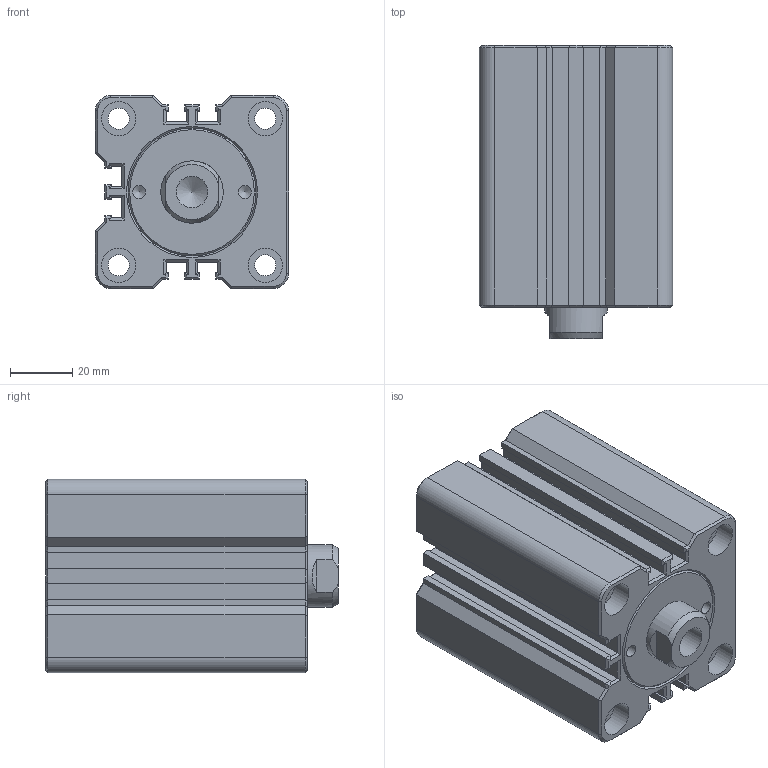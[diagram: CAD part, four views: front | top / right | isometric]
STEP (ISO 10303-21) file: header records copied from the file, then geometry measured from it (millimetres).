
FILE_DESCRIPTION(/* description */ ('Unknown'),/* implementation_level */ '2;1');
FILE_NAME(/* name */ 'HTM70-SDMB32X30N',/* time_stamp */ '2022-08-31T05:39:59+08:00',/* author */ ('Unknown'),/* organization */ ('Unknown'),/* preprocessor_version */ 'ST-DEVELOPER v16.7',/* originating_system */ 'DEX',/* authorisation */ $);
FILE_SCHEMA (('AUTOMOTIVE_DESIGN {1 0 10303 214 3 1 1}'));
Length unit declared in the file: millimetre
Products named in the file (1): HTM70-SDMB32X30N
Bounding box: 62 x 94 x 62 mm (x, y, z)
Volume: 271478.3 mm3; surface area: 45784.7 mm2
Topology: 1 solids, 1 shells, 321 faces, 746 edges, 447 vertices
Faces by surface type: plane 218, cone 40, bspline 36, cylinder 27
Full cylindrical faces by diameter (mm): 4.1 x2, 5 x2, 6 x1, 6.8 x4, 10.106 x1, 11 x8, 12 x2, 13 x2, 20 x1
Entity records: 11197 total; most frequent: CARTESIAN_POINT 2127, ORIENTED_EDGE 1386, DIRECTION 1284, EDGE_CURVE 693, LINE 486, VECTOR 486, VERTEX_POINT 434, AXIS2_PLACEMENT_3D 399
